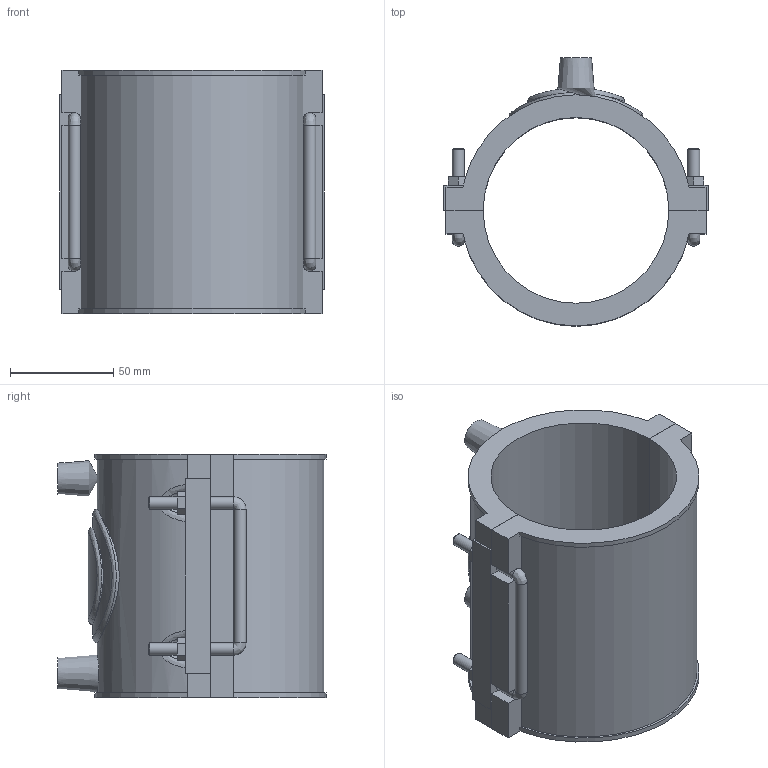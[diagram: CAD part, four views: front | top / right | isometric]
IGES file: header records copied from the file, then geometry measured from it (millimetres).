
Global section: file name: 495204090.ipt; native system: Autodesk Inventor 2015; preprocessor: unknown; author: KIM; date: 20171106.094227; units: millimetre
Bounding box: 128 x 130 x 118 mm (x, y, z)
Volume: 439196.1 mm3; surface area: 104285.4 mm2
Topology: 2 solids, 2 shells, 133 faces, 342 edges, 216 vertices
Faces by surface type: plane 84, cylinder 25, bspline 10, revolution 8, cone 6
Full cylindrical faces by diameter (mm): 4 x2, 6 x10
